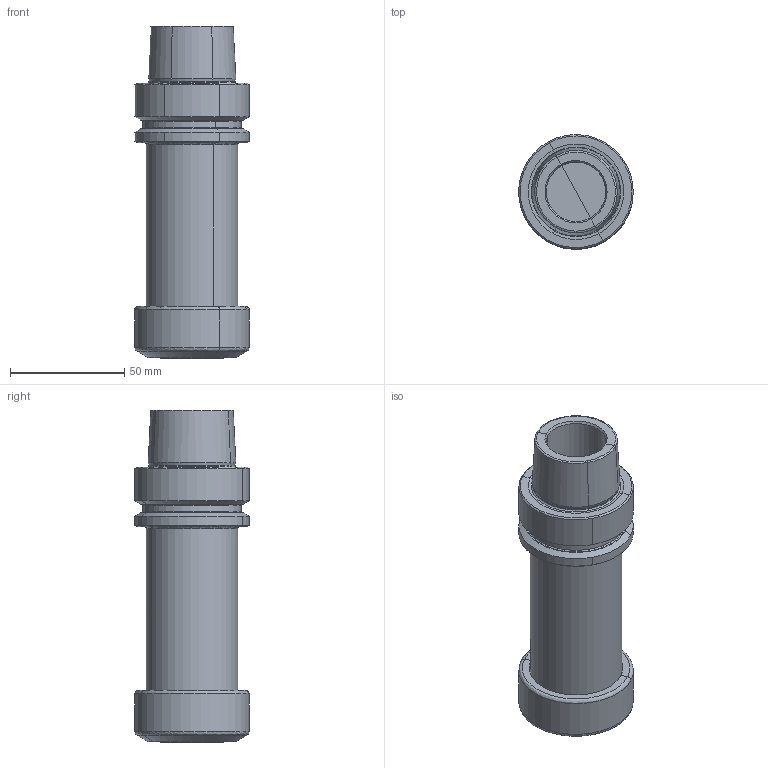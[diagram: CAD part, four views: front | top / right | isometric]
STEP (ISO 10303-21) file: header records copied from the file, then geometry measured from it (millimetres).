
FILE_DESCRIPTION(('CATIA V5 STEP','CAx-IF Rec.Pracs.--- Model Styling and Organization---1.2---2011-12-15'),'2;1');
FILE_NAME('\\nas01\drv1\utils\eitdev\rte\eit\transmagicconvert\db\out\635930285200910319\4500639 L.stp','2016-03-08T08:08:53+00:00',('none'),('none'),'CATIA Version 5 Release 21 SP 5 (IN-10)','CATIA V5 STEP AP214','none');
FILE_SCHEMA(('AUTOMOTIVE_DESIGN { 1 0 10303 214 1 1 1 1 }'));
Length unit declared in the file: millimetre
Products named in the file (1): HSK A 50 ER32X120
Bounding box: 49.99 x 49.99 x 145.03 mm (x, y, z)
Volume: 160037.9 mm3; surface area: 31599.2 mm2
Topology: 1 solids, 1 shells, 95 faces, 190 edges, 97 vertices
Faces by surface type: revolution 77, plane 18
Entity records: 2975 total; most frequent: CARTESIAN_POINT 1223, ORIENTED_EDGE 380, DIRECTION 214, EDGE_CURVE 190, B_SPLINE_CURVE_WITH_KNOTS 154, AXIS2_PLACEMENT_3D 110, CIRCLE 97, VERTEX_POINT 97
